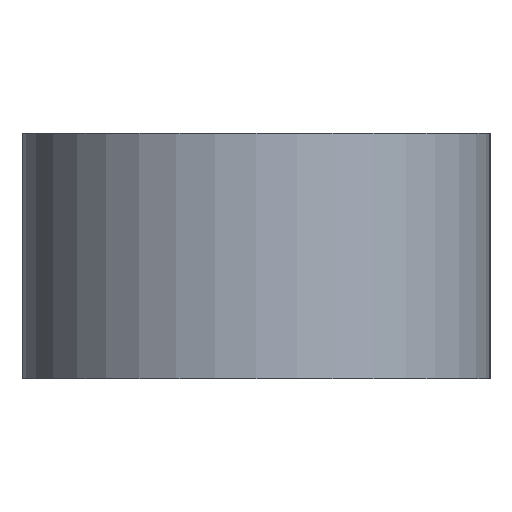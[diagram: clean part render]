
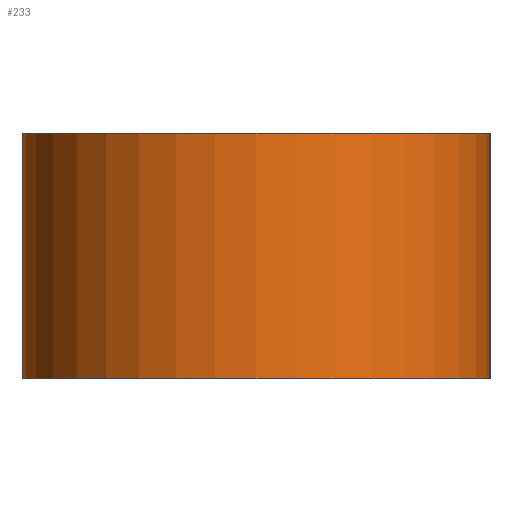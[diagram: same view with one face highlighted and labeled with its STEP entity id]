
A CAD part, left-side view. The second image highlights one B-rep face of the part: STEP entity #233.
In plain terms, the highlighted cylindrical face has radius 6 mm (diameter 12 mm), a partial arc.
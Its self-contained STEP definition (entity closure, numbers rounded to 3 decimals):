
#34=CYLINDRICAL_SURFACE('',#282,6.);
#44=FACE_OUTER_BOUND('',#61,.T.);
#61=EDGE_LOOP('',(#203,#204,#205,#206));
#80=LINE('',#411,#94);
#81=LINE('',#415,#95);
#94=VECTOR('',#344,10.);
#95=VECTOR('',#349,10.);
#103=CIRCLE('',#268,6.);
#112=CIRCLE('',#283,6.);
#120=VERTEX_POINT('',#377);
#121=VERTEX_POINT('',#379);
#130=VERTEX_POINT('',#407);
#132=VERTEX_POINT('',#413);
#142=EDGE_CURVE('',#120,#121,#103,.T.);
#158=EDGE_CURVE('',#130,#121,#80,.T.);
#159=EDGE_CURVE('',#132,#130,#112,.T.);
#160=EDGE_CURVE('',#132,#120,#81,.T.);
#203=ORIENTED_EDGE('',*,*,#159,.T.);
#204=ORIENTED_EDGE('',*,*,#158,.T.);
#205=ORIENTED_EDGE('',*,*,#142,.F.);
#206=ORIENTED_EDGE('',*,*,#160,.F.);
#233=ADVANCED_FACE('',(#44),#34,.T.);
#268=AXIS2_PLACEMENT_3D('',#380,#309,#310);
#282=AXIS2_PLACEMENT_3D('',#412,#345,#346);
#283=AXIS2_PLACEMENT_3D('',#414,#347,#348);
#309=DIRECTION('center_axis',(0.,0.,1.));
#310=DIRECTION('ref_axis',(0.,1.,0.));
#344=DIRECTION('',(0.,0.,1.));
#345=DIRECTION('center_axis',(0.,0.,1.));
#346=DIRECTION('ref_axis',(0.,1.,0.));
#347=DIRECTION('center_axis',(0.,0.,1.));
#348=DIRECTION('ref_axis',(0.,1.,0.));
#349=DIRECTION('',(0.,0.,1.));
#377=CARTESIAN_POINT('',(-35.,6.,6.3));
#379=CARTESIAN_POINT('',(-35.,-6.,6.3));
#380=CARTESIAN_POINT('Origin',(-35.,0.,6.3));
#407=CARTESIAN_POINT('',(-35.,-6.,0.));
#411=CARTESIAN_POINT('',(-35.,-6.,0.));
#412=CARTESIAN_POINT('Origin',(-35.,0.,0.));
#413=CARTESIAN_POINT('',(-35.,6.,0.));
#414=CARTESIAN_POINT('Origin',(-35.,0.,0.));
#415=CARTESIAN_POINT('',(-35.,6.,0.));
